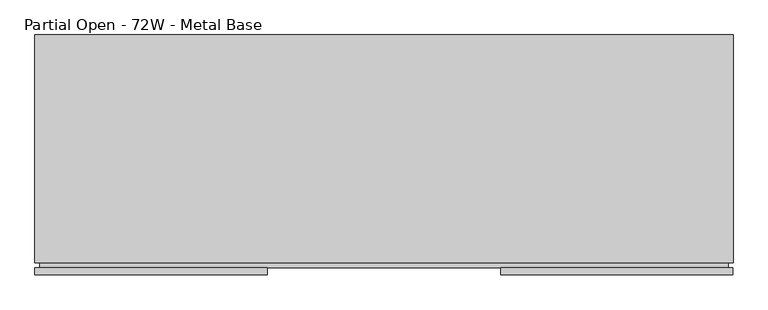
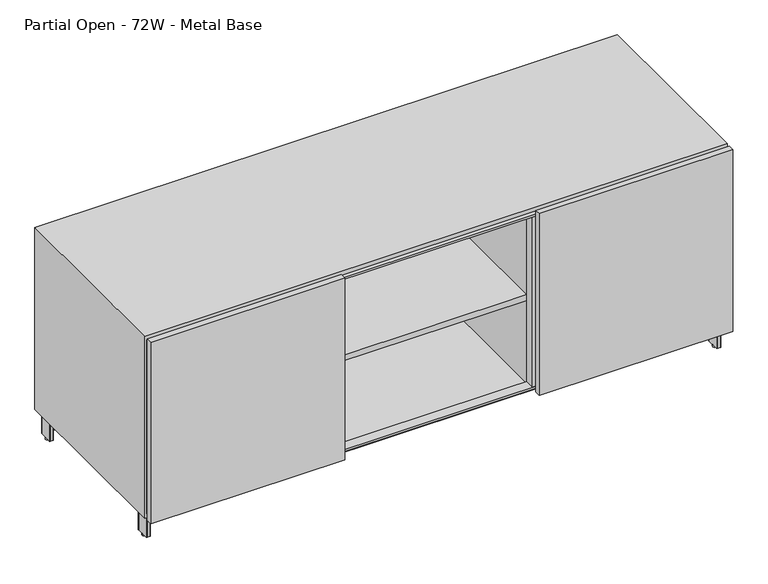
"""IFC4 building model written with IfcOpenShell, lengths in millimetres: furniture geometry, Steelcase Coalesse - Exponents - Storage - Credenza - 27H : Partial Open - 72W - Metal Base."""

from ifc_helpers import new_model, si_unit, point, frame, frame_2d, origin, origin_with_axes, place, context, project, spatial, polyline, circle_curve, trimmed, segment, composite_curve, outline, extrude, faceted_brep, source, transform, mapped, element, save


def partial_open_72w_metal_base_51bc215a(model_context):
    return source(origin(), model_context, "Body", "SolidModel", [
        faceted_brep([(6.35, 31.75, 673.1), (6.35, 31.75, 95.25), (6.35, 622.3, 95.25), (6.35, 622.3, 673.1), (1822.45, 622.3, 95.25), (1822.45, 622.3, 673.1), (1822.45, 31.75, 95.25), (1822.45, 31.75, 673.1), (0.0, 31.75, 82.55), (1828.8, 31.75, 82.55), (1828.8, 31.75, 685.8), (0.0, 31.75, 685.8), (1828.8, 628.65, 82.55), (1828.8, 628.65, 685.8), (0.0, 628.65, 82.55), (0.0, 628.65, 685.8)], [[[0, 1, 2, 3]], [[3, 2, 4, 5]], [[5, 4, 6, 7]], [[8, 9, 10, 11], [7, 6, 1, 0]], [[10, 9, 12, 13]], [[13, 12, 14, 15]], [[15, 14, 8, 11]], [[7, 0, 3, 5]], [[10, 13, 15, 11]], [[1, 6, 4, 2]], [[12, 9, 8, 14]]]),
        extrude(outline(composite_curve([segment(polyline([(1805.1506426, 615.95), (1814.322, 615.95)]), True, "CONTINUOUS"), segment(trimmed(circle_curve(frame_2d((1814.322, 614.172)), 1.778), [point((1814.322, 615.95))], [point((1816.1, 614.172))], False, "CARTESIAN"), True, "CONTINUOUS"), segment(polyline([(1816.1, 614.172), (1816.1, 572.9986)]), True, "CONTINUOUS"), segment(trimmed(circle_curve(frame_2d((1814.322, 572.9986)), 1.778), [point((1816.1, 572.9986))], [point((1814.322, 571.2206))], False, "CARTESIAN"), True, "CONTINUOUS"), segment(polyline([(1814.322, 571.2206), (1805.1948916, 571.2206)]), True, "CONTINUOUS"), segment(trimmed(circle_curve(frame_2d((1805.1948916, 573.0154916)), 1.7948916), [point((1805.1948916, 571.2206))], [point((1803.4, 573.0154916))], False, "CARTESIAN"), True, "CONTINUOUS"), segment(polyline([(1803.4, 573.0154916), (1803.4, 614.1993574)]), True, "CONTINUOUS"), segment(trimmed(circle_curve(frame_2d((1805.1506426, 614.1993574)), 1.7506426), [point((1803.4, 614.1993574))], [point((1805.1506426, 615.95))], False, "CARTESIAN"), True, "CONTINUOUS")], self_intersect=False)), frame((0.0, 0.0, 6.35), z_axis=(0.0, 0.0, 1.0), x_axis=(1.0, 0.0, 0.0)), (0.0, 0.0, 1.0), 73.4568),
        extrude(outline(composite_curve([segment(polyline([(1805.1506426, 88.9), (1814.322, 88.9)]), True, "CONTINUOUS"), segment(trimmed(circle_curve(frame_2d((1814.322, 87.122)), 1.778), [point((1814.322, 88.9))], [point((1816.1, 87.122))], False, "CARTESIAN"), True, "CONTINUOUS"), segment(polyline([(1816.1, 87.122), (1816.1, 45.9486)]), True, "CONTINUOUS"), segment(trimmed(circle_curve(frame_2d((1814.322, 45.9486)), 1.778), [point((1816.1, 45.9486))], [point((1814.322, 44.1706))], False, "CARTESIAN"), True, "CONTINUOUS"), segment(polyline([(1814.322, 44.1706), (1805.1948916, 44.1706)]), True, "CONTINUOUS"), segment(trimmed(circle_curve(frame_2d((1805.1948916, 45.9654916)), 1.7948916), [point((1805.1948916, 44.1706))], [point((1803.4, 45.9654916))], False, "CARTESIAN"), True, "CONTINUOUS"), segment(polyline([(1803.4, 45.9654916), (1803.4, 87.1493574)]), True, "CONTINUOUS"), segment(trimmed(circle_curve(frame_2d((1805.1506426, 87.1493574)), 1.7506426), [point((1803.4, 87.1493574))], [point((1805.1506426, 88.9))], False, "CARTESIAN"), True, "CONTINUOUS")], self_intersect=False)), frame((0.0, 0.0, 6.35), z_axis=(0.0, 0.0, 1.0), x_axis=(1.0, 0.0, 0.0)), (0.0, 0.0, 1.0), 73.4568),
        extrude(outline(composite_curve([segment(trimmed(circle_curve(frame_2d((1809.75, 593.5667033)), 6.35), [point((1809.75, 599.9167033))], [point((1809.75, 587.2167033))], False, "CARTESIAN"), True, "CONTINUOUS"), segment(trimmed(circle_curve(frame_2d((1809.75, 593.5667033)), 6.35), [point((1809.75, 587.2167033))], [point((1809.75, 599.9167033))], False, "CARTESIAN"), True, "CONTINUOUS")], self_intersect=False)), origin_with_axes(), (0.0, 0.0, 1.0), 6.35),
        extrude(outline(composite_curve([segment(trimmed(circle_curve(frame_2d((1809.75, 66.7867854)), 6.35), [point((1809.75, 73.1367854))], [point((1809.75, 60.4367854))], False, "CARTESIAN"), True, "CONTINUOUS"), segment(trimmed(circle_curve(frame_2d((1809.75, 66.7867854)), 6.35), [point((1809.75, 60.4367854))], [point((1809.75, 73.1367854))], False, "CARTESIAN"), True, "CONTINUOUS")], self_intersect=False)), origin_with_axes(), (0.0, 0.0, 1.0), 6.35),
        extrude(outline(polyline([(1270.0, 379.0696809), (1270.0, 277.4696809), (1168.4, 277.4696809), (1168.4, 379.0696809), (1270.0, 379.0696809)])), frame((0.0, 0.0, 79.8068), z_axis=(0.0, 0.0, 1.0), x_axis=(1.0, 0.0, 0.0)), (0.0, 0.0, 1.0), 2.7432),
        extrude(outline(polyline([(673.1, 1816.1), (673.1, 12.7), (95.25, 12.7), (95.25, 1816.1), (673.1, 1816.1)]), holes=[polyline([(666.75, 1809.75), (101.6, 1809.75), (101.6, 19.05), (666.75, 19.05), (666.75, 1809.75)])]), frame((0.0, 19.05, 0.0), z_axis=(0.0, 1.0, 0.0), x_axis=(0.0, 0.0, 1.0)), (0.0, 0.0, 1.0), 31.75),
        extrude(outline(composite_curve([segment(polyline([(1211.4256426, 349.25), (1226.947, 349.25)]), True, "CONTINUOUS"), segment(trimmed(circle_curve(frame_2d((1226.947, 347.472)), 1.778), [point((1226.947, 349.25))], [point((1228.725, 347.472))], False, "CARTESIAN"), True, "CONTINUOUS"), segment(polyline([(1228.725, 347.472), (1228.725, 312.928)]), True, "CONTINUOUS"), segment(trimmed(circle_curve(frame_2d((1226.947, 312.928)), 1.778), [point((1228.725, 312.928))], [point((1226.947, 311.15))], False, "CARTESIAN"), True, "CONTINUOUS"), segment(polyline([(1226.947, 311.15), (1211.4698916, 311.15)]), True, "CONTINUOUS"), segment(trimmed(circle_curve(frame_2d((1211.4698916, 312.9448916)), 1.7948916), [point((1211.4698916, 311.15))], [point((1209.675, 312.9448916))], False, "CARTESIAN"), True, "CONTINUOUS"), segment(polyline([(1209.675, 312.9448916), (1209.675, 347.4993574)]), True, "CONTINUOUS"), segment(trimmed(circle_curve(frame_2d((1211.4256426, 347.4993574)), 1.7506426), [point((1209.675, 347.4993574))], [point((1211.4256426, 349.25))], False, "CARTESIAN"), True, "CONTINUOUS")], self_intersect=False)), frame((0.0, 0.0, 6.35), z_axis=(0.0, 0.0, 1.0), x_axis=(1.0, 0.0, 0.0)), (0.0, 0.0, 1.0), 73.4568),
        extrude(outline(polyline([(1220.4800308, 345.280854), (1803.4, 598.591626), (1803.4, 577.8206777), (1233.5741031, 330.2), (1803.4, 82.5793223), (1803.4, 61.808374), (1220.777267, 314.9899805), (1227.2101738, 329.7934165), (1220.4800308, 345.280854)])), frame((0.0, 0.0, 34.925), z_axis=(0.0, 0.0, 1.0), x_axis=(1.0, 0.0, 0.0)), (0.0, 0.0, 1.0), 44.8818),
        extrude(outline(polyline([(1822.45, 520.7), (1720.85, 520.7), (1720.85, 622.3), (1822.45, 622.3), (1822.45, 520.7)])), frame((0.0, 0.0, 79.8068), z_axis=(0.0, 0.0, 1.0), x_axis=(1.0, 0.0, 0.0)), (0.0, 0.0, 1.0), 2.7432),
        extrude(outline(polyline([(1822.45, 139.7), (1822.45, 38.1), (1720.85, 38.1), (1720.85, 139.7), (1822.45, 139.7)])), frame((0.0, 0.0, 79.8068), z_axis=(0.0, 0.0, 1.0), x_axis=(1.0, 0.0, 0.0)), (0.0, 0.0, 1.0), 2.7432),
        extrude(outline(composite_curve([segment(trimmed(circle_curve(frame_2d((1219.0250692, 330.5590189)), 6.35), [point((1219.0250692, 336.9090189))], [point((1219.0250692, 324.2090189))], False, "CARTESIAN"), True, "CONTINUOUS"), segment(trimmed(circle_curve(frame_2d((1219.0250692, 330.5590189)), 6.35), [point((1219.0250692, 324.2090189))], [point((1219.0250692, 336.9090189))], False, "CARTESIAN"), True, "CONTINUOUS")], self_intersect=False)), origin_with_axes(), (0.0, 0.0, 1.0), 6.35),
        extrude(outline(polyline([(1827.8348, 19.05), (1827.8348, 0.0), (1220.0128, 0.0), (1220.0128, 19.05), (1827.8348, 19.05)])), frame((0.0, 0.0, 82.55), z_axis=(0.0, 0.0, 1.0), x_axis=(1.0, 0.0, 0.0)), (0.0, 0.0, 1.0), 603.25),
        extrude(outline(composite_curve([segment(trimmed(circle_curve(frame_2d((23.6493574, 614.1993574)), 1.7506426), [point((23.6493574, 615.95))], [point((25.4, 614.1993574))], False, "CARTESIAN"), True, "CONTINUOUS"), segment(polyline([(25.4, 614.1993574), (25.4, 573.0154916)]), True, "CONTINUOUS"), segment(trimmed(circle_curve(frame_2d((23.6051084, 573.0154916)), 1.7948916), [point((25.4, 573.0154916))], [point((23.6051084, 571.2206))], False, "CARTESIAN"), True, "CONTINUOUS"), segment(polyline([(23.6051084, 571.2206), (14.478, 571.2206)]), True, "CONTINUOUS"), segment(trimmed(circle_curve(frame_2d((14.478, 572.9986)), 1.778), [point((14.478, 571.2206))], [point((12.7, 572.9986))], False, "CARTESIAN"), True, "CONTINUOUS"), segment(polyline([(12.7, 572.9986), (12.7, 614.172)]), True, "CONTINUOUS"), segment(trimmed(circle_curve(frame_2d((14.478, 614.172)), 1.778), [point((12.7, 614.172))], [point((14.478, 615.95))], False, "CARTESIAN"), True, "CONTINUOUS"), segment(polyline([(14.478, 615.95), (23.6493574, 615.95)]), True, "CONTINUOUS")], self_intersect=False)), frame((0.0, 0.0, 6.35), z_axis=(0.0, 0.0, 1.0), x_axis=(1.0, 0.0, 0.0)), (0.0, 0.0, 1.0), 73.4568),
        extrude(outline(composite_curve([segment(trimmed(circle_curve(frame_2d((23.6493574, 87.1493574)), 1.7506426), [point((23.6493574, 88.9))], [point((25.4, 87.1493574))], False, "CARTESIAN"), True, "CONTINUOUS"), segment(polyline([(25.4, 87.1493574), (25.4, 45.9654916)]), True, "CONTINUOUS"), segment(trimmed(circle_curve(frame_2d((23.6051084, 45.9654916)), 1.7948916), [point((25.4, 45.9654916))], [point((23.6051084, 44.1706))], False, "CARTESIAN"), True, "CONTINUOUS"), segment(polyline([(23.6051084, 44.1706), (14.478, 44.1706)]), True, "CONTINUOUS"), segment(trimmed(circle_curve(frame_2d((14.478, 45.9486)), 1.778), [point((14.478, 44.1706))], [point((12.7, 45.9486))], False, "CARTESIAN"), True, "CONTINUOUS"), segment(polyline([(12.7, 45.9486), (12.7, 87.122)]), True, "CONTINUOUS"), segment(trimmed(circle_curve(frame_2d((14.478, 87.122)), 1.778), [point((12.7, 87.122))], [point((14.478, 88.9))], False, "CARTESIAN"), True, "CONTINUOUS"), segment(polyline([(14.478, 88.9), (23.6493574, 88.9)]), True, "CONTINUOUS")], self_intersect=False)), frame((0.0, 0.0, 6.35), z_axis=(0.0, 0.0, 1.0), x_axis=(1.0, 0.0, 0.0)), (0.0, 0.0, 1.0), 73.4568),
        extrude(outline(composite_curve([segment(trimmed(circle_curve(frame_2d((617.3743574, 347.4993574)), 1.7506426), [point((617.3743574, 349.25))], [point((619.125, 347.4993574))], False, "CARTESIAN"), True, "CONTINUOUS"), segment(polyline([(619.125, 347.4993574), (619.125, 312.9448916)]), True, "CONTINUOUS"), segment(trimmed(circle_curve(frame_2d((617.3301084, 312.9448916)), 1.7948916), [point((619.125, 312.9448916))], [point((617.3301084, 311.15))], False, "CARTESIAN"), True, "CONTINUOUS"), segment(polyline([(617.3301084, 311.15), (601.853, 311.15)]), True, "CONTINUOUS"), segment(trimmed(circle_curve(frame_2d((601.853, 312.928)), 1.778), [point((601.853, 311.15))], [point((600.075, 312.928))], False, "CARTESIAN"), True, "CONTINUOUS"), segment(polyline([(600.075, 312.928), (600.075, 347.472)]), True, "CONTINUOUS"), segment(trimmed(circle_curve(frame_2d((601.853, 347.472)), 1.778), [point((600.075, 347.472))], [point((601.853, 349.25))], False, "CARTESIAN"), True, "CONTINUOUS"), segment(polyline([(601.853, 349.25), (617.3743574, 349.25)]), True, "CONTINUOUS")], self_intersect=False)), frame((0.0, 0.0, 6.35), z_axis=(0.0, 0.0, 1.0), x_axis=(1.0, 0.0, 0.0)), (0.0, 0.0, 1.0), 73.4568),
        extrude(outline(polyline([(608.3199692, 345.280854), (601.5898262, 329.7934165), (608.022733, 314.9899805), (25.4, 61.808374), (25.4, 82.5793223), (595.2258969, 330.2), (25.4, 577.8206777), (25.4, 598.591626), (608.3199692, 345.280854)])), frame((0.0, 0.0, 34.925), z_axis=(0.0, 0.0, 1.0), x_axis=(1.0, 0.0, 0.0)), (0.0, 0.0, 1.0), 44.8818),
        extrude(outline(polyline([(6.35, 520.7), (6.35, 622.3), (107.95, 622.3), (107.95, 520.7), (6.35, 520.7)])), frame((0.0, 0.0, 79.8068), z_axis=(0.0, 0.0, 1.0), x_axis=(1.0, 0.0, 0.0)), (0.0, 0.0, 1.0), 2.7432),
        extrude(outline(polyline([(6.35, 139.7), (107.95, 139.7), (107.95, 38.1), (6.35, 38.1), (6.35, 139.7)])), frame((0.0, 0.0, 79.8068), z_axis=(0.0, 0.0, 1.0), x_axis=(1.0, 0.0, 0.0)), (0.0, 0.0, 1.0), 2.7432),
        extrude(outline(polyline([(558.8, 379.0696809), (660.4, 379.0696809), (660.4, 277.4696809), (558.8, 277.4696809), (558.8, 379.0696809)])), frame((0.0, 0.0, 79.8068), z_axis=(0.0, 0.0, 1.0), x_axis=(1.0, 0.0, 0.0)), (0.0, 0.0, 1.0), 2.7432),
        extrude(outline(polyline([(608.965, 19.05), (608.965, 0.0), (0.0, 0.0), (0.0, 19.05), (608.965, 19.05)])), frame((0.0, 0.0, 82.55), z_axis=(0.0, 0.0, 1.0), x_axis=(1.0, 0.0, 0.0)), (0.0, 0.0, 1.0), 603.25),
        extrude(outline(composite_curve([segment(trimmed(circle_curve(frame_2d((19.05, 593.5667033)), 6.35), [point((12.7, 593.5667033))], [point((25.4, 593.5667033))], False, "CARTESIAN"), True, "CONTINUOUS"), segment(trimmed(circle_curve(frame_2d((19.05, 593.5667033)), 6.35), [point((25.4, 593.5667033))], [point((12.7, 593.5667033))], False, "CARTESIAN"), True, "CONTINUOUS")], self_intersect=False)), origin_with_axes(), (0.0, 0.0, 1.0), 6.35),
        extrude(outline(composite_curve([segment(trimmed(circle_curve(frame_2d((19.05, 66.7867854)), 6.35), [point((12.7, 66.7867854))], [point((25.4, 66.7867854))], False, "CARTESIAN"), True, "CONTINUOUS"), segment(trimmed(circle_curve(frame_2d((19.05, 66.7867854)), 6.35), [point((25.4, 66.7867854))], [point((12.7, 66.7867854))], False, "CARTESIAN"), True, "CONTINUOUS")], self_intersect=False)), origin_with_axes(), (0.0, 0.0, 1.0), 6.35),
        extrude(outline(composite_curve([segment(trimmed(circle_curve(frame_2d((609.7749308, 330.5590189)), 6.35), [point((603.4249308, 330.5590189))], [point((616.1249308, 330.5590189))], False, "CARTESIAN"), True, "CONTINUOUS"), segment(trimmed(circle_curve(frame_2d((609.7749308, 330.5590189)), 6.35), [point((616.1249308, 330.5590189))], [point((603.4249308, 330.5590189))], False, "CARTESIAN"), True, "CONTINUOUS")], self_intersect=False)), origin_with_axes(), (0.0, 0.0, 1.0), 6.35),
        extrude(outline(polyline([(0.0, -19.05), (0.0, 0.0), (31.75, 0.0), (31.75, -19.05), (0.0, -19.05)])), frame((1209.675, 19.05, 101.6), z_axis=(3.1477043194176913e-12, 0.0, 1.0), x_axis=(0.0, 1.0, 0.0)), (0.0, 0.0, 1.0), 565.15),
        extrude(outline(polyline([(0.0, -19.05), (0.0, 0.0), (31.75, 0.0), (31.75, -19.05), (0.0, -19.05)])), frame((590.55, 19.05, 101.6), z_axis=(3.3608671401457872e-12, 0.0, 1.0), x_axis=(0.0, 1.0, 0.0)), (0.0, 0.0, 1.0), 565.15),
        extrude(outline(polyline([(1209.675, 609.6), (1228.725, 609.6), (1228.725, 50.8), (1209.675, 50.8), (1209.675, 609.6)])), frame((0.0, 0.0, 95.25), z_axis=(0.0, 0.0, 1.0), x_axis=(1.0, 0.0, 0.0)), (0.0, 0.0, 1.0), 577.85),
        extrude(outline(polyline([(1209.675, 50.8), (609.6, 50.8), (609.6, 609.6), (1209.675, 609.6), (1209.675, 50.8)])), frame((0.0, 0.0, 371.475), z_axis=(0.0, 0.0, 1.0), x_axis=(1.0, 0.0, 0.0)), (0.0, 0.0, 1.0), 19.05),
        extrude(outline(polyline([(590.55, 609.6), (609.6, 609.6), (609.6, 50.8), (590.55, 50.8), (590.55, 609.6)])), frame((0.0, 0.0, 95.25), z_axis=(0.0, 0.0, 1.0), x_axis=(1.0, 0.0, 0.0)), (0.0, 0.0, 1.0), 577.85),
    ])


if __name__ == "__main__":
    model = new_model("IFC4")
    model_context = context("Model", 3, world=origin())
    ifc_project = project(units=[si_unit("LENGTHUNIT", "METRE", prefix="MILLI")], contexts=[model_context])
    site = spatial("IfcSite", under=ifc_project)
    building = spatial("IfcBuilding", under=site)
    placement = place(None, origin())
    partial_open_72w_metal_base_shape = partial_open_72w_metal_base_51bc215a(model_context)
    element("IfcFurniture", 1, ObjectType="Steelcase Coalesse - Exponents - Storage - Credenza - 27H : Partial Open - 72W - Metal Base", at=placement, inside=building, context=model_context, shape_type="MappedRepresentation", body=[
        mapped(partial_open_72w_metal_base_shape, transform((0.0, 0.0, 0.0), x_axis=(1.0, 0.0, 0.0), y_axis=(0.0, 1.0, 0.0), z_axis=(0.0, 0.0, 1.0))),
    ])
    save(model, "model.ifc")
